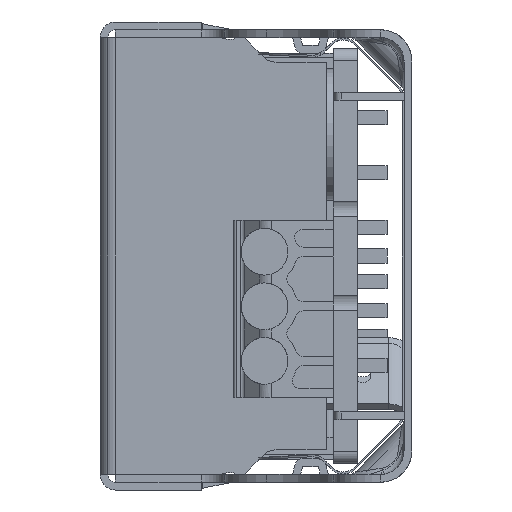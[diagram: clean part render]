
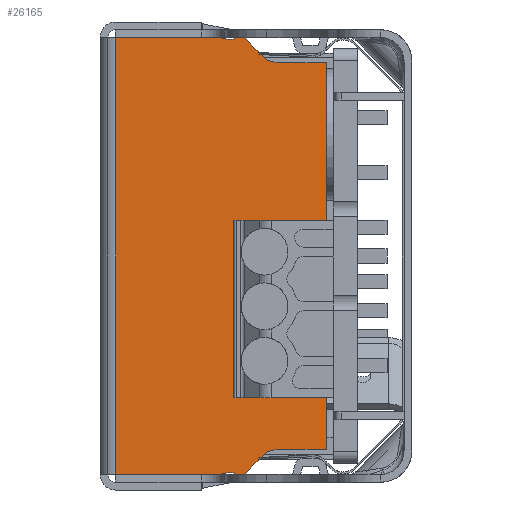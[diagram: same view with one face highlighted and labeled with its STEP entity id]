
A CAD part, left-side view. The second image highlights one B-rep face of the part: STEP entity #26165.
In plain terms, the highlighted planar face has unit normal (-1, 0, 0).
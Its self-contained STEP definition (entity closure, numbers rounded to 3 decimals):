
#551=PLANE('',#27754);
#1696=LINE('',#36732,#3579);
#1711=LINE('',#36772,#3594);
#1800=LINE('',#37047,#3683);
#1805=LINE('',#37057,#3688);
#1812=LINE('',#37071,#3695);
#1823=LINE('',#37090,#3706);
#1834=LINE('',#37128,#3717);
#1841=LINE('',#37147,#3724);
#1851=LINE('',#37178,#3734);
#1974=LINE('',#37437,#3857);
#1976=LINE('',#37441,#3859);
#1984=LINE('',#37457,#3867);
#1998=LINE('',#37499,#3881);
#2000=LINE('',#37510,#3883);
#2041=LINE('',#37614,#3924);
#2042=LINE('',#37617,#3925);
#2043=LINE('',#37618,#3926);
#2044=LINE('',#37620,#3927);
#3579=VECTOR('',#31245,1000.);
#3594=VECTOR('',#31274,1000.);
#3683=VECTOR('',#31509,1000.);
#3688=VECTOR('',#31516,1000.);
#3695=VECTOR('',#31525,1000.);
#3706=VECTOR('',#31538,1000.);
#3717=VECTOR('',#31567,1000.);
#3724=VECTOR('',#31582,1000.);
#3734=VECTOR('',#31604,1000.);
#3857=VECTOR('',#31825,1000.);
#3859=VECTOR('',#31831,1000.);
#3867=VECTOR('',#31843,1000.);
#3881=VECTOR('',#31889,1000.);
#3883=VECTOR('',#31905,1000.);
#3924=VECTOR('',#31998,1000.);
#3925=VECTOR('',#31999,1000.);
#3926=VECTOR('',#32000,1000.);
#3927=VECTOR('',#32001,1000.);
#5022=CIRCLE('',#27724,2.);
#5024=CIRCLE('',#27727,2.);
#5025=CIRCLE('',#27730,2.);
#5028=CIRCLE('',#27734,2.);
#5031=CIRCLE('',#27749,0.7);
#5034=CIRCLE('',#27755,0.7);
#8706=ORIENTED_EDGE('',*,*,#12579,.F.);
#8707=ORIENTED_EDGE('',*,*,#12580,.T.);
#8708=ORIENTED_EDGE('',*,*,#12318,.T.);
#8709=ORIENTED_EDGE('',*,*,#12161,.T.);
#8710=ORIENTED_EDGE('',*,*,#12307,.F.);
#8711=ORIENTED_EDGE('',*,*,#12521,.T.);
#8712=ORIENTED_EDGE('',*,*,#12526,.F.);
#8713=ORIENTED_EDGE('',*,*,#12491,.T.);
#8714=ORIENTED_EDGE('',*,*,#12333,.T.);
#8715=ORIENTED_EDGE('',*,*,#12499,.T.);
#8716=ORIENTED_EDGE('',*,*,#12534,.F.);
#8717=ORIENTED_EDGE('',*,*,#12527,.T.);
#8718=ORIENTED_EDGE('',*,*,#12295,.F.);
#8719=ORIENTED_EDGE('',*,*,#12142,.T.);
#8720=ORIENTED_EDGE('',*,*,#12300,.T.);
#8721=ORIENTED_EDGE('',*,*,#12581,.T.);
#8722=ORIENTED_EDGE('',*,*,#12582,.F.);
#8723=ORIENTED_EDGE('',*,*,#12569,.F.);
#8724=ORIENTED_EDGE('',*,*,#12530,.T.);
#8725=ORIENTED_EDGE('',*,*,#12342,.T.);
#8726=ORIENTED_EDGE('',*,*,#12489,.T.);
#8727=ORIENTED_EDGE('',*,*,#12356,.T.);
#8728=ORIENTED_EDGE('',*,*,#12524,.T.);
#8729=ORIENTED_EDGE('',*,*,#12583,.F.);
#12142=EDGE_CURVE('',#14485,#14486,#1696,.T.);
#12161=EDGE_CURVE('',#14503,#14504,#1711,.T.);
#12295=EDGE_CURVE('',#14485,#14574,#1800,.T.);
#12300=EDGE_CURVE('',#14486,#14577,#1805,.T.);
#12307=EDGE_CURVE('',#14583,#14504,#1812,.T.);
#12318=EDGE_CURVE('',#14587,#14503,#1823,.T.);
#12333=EDGE_CURVE('',#14601,#14600,#1834,.T.);
#12342=EDGE_CURVE('',#14609,#14610,#1841,.T.);
#12356=EDGE_CURVE('',#14624,#14623,#1851,.T.);
#12489=EDGE_CURVE('',#14610,#14624,#1974,.T.);
#12491=EDGE_CURVE('',#14711,#14601,#1976,.T.);
#12499=EDGE_CURVE('',#14600,#14716,#1984,.T.);
#12521=EDGE_CURVE('',#14583,#14728,#1998,.T.);
#12524=EDGE_CURVE('',#14623,#14730,#5022,.T.);
#12526=EDGE_CURVE('',#14711,#14728,#5024,.T.);
#12527=EDGE_CURVE('',#14731,#14574,#2000,.T.);
#12530=EDGE_CURVE('',#14733,#14609,#5025,.T.);
#12534=EDGE_CURVE('',#14731,#14716,#5028,.T.);
#12569=EDGE_CURVE('',#14733,#14758,#5031,.T.);
#12579=EDGE_CURVE('',#14764,#14765,#2041,.T.);
#12580=EDGE_CURVE('',#14764,#14587,#2042,.T.);
#12581=EDGE_CURVE('',#14577,#14766,#2043,.T.);
#12582=EDGE_CURVE('',#14758,#14766,#2044,.T.);
#12583=EDGE_CURVE('',#14765,#14730,#5034,.T.);
#14485=VERTEX_POINT('',#36733);
#14486=VERTEX_POINT('',#36734);
#14503=VERTEX_POINT('',#36773);
#14504=VERTEX_POINT('',#36774);
#14574=VERTEX_POINT('',#37048);
#14577=VERTEX_POINT('',#37056);
#14583=VERTEX_POINT('',#37070);
#14587=VERTEX_POINT('',#37081);
#14600=VERTEX_POINT('',#37127);
#14601=VERTEX_POINT('',#37129);
#14609=VERTEX_POINT('',#37148);
#14610=VERTEX_POINT('',#37149);
#14623=VERTEX_POINT('',#37177);
#14624=VERTEX_POINT('',#37179);
#14711=VERTEX_POINT('',#37442);
#14716=VERTEX_POINT('',#37456);
#14728=VERTEX_POINT('',#37498);
#14730=VERTEX_POINT('',#37504);
#14731=VERTEX_POINT('',#37511);
#14733=VERTEX_POINT('',#37517);
#14758=VERTEX_POINT('',#37596);
#14764=VERTEX_POINT('',#37615);
#14765=VERTEX_POINT('',#37616);
#14766=VERTEX_POINT('',#37619);
#16315=EDGE_LOOP('',(#8706,#8707,#8708,#8709,#8710,#8711,#8712,#8713,#8714,
#8715,#8716,#8717,#8718,#8719,#8720,#8721,#8722,#8723,#8724,#8725,#8726,
#8727,#8728,#8729));
#17587=FACE_BOUND('',#16315,.T.);
#26165=ADVANCED_FACE('',(#17587),#551,.T.);
#27724=AXIS2_PLACEMENT_3D('',#37505,#31895,#31896);
#27727=AXIS2_PLACEMENT_3D('',#37508,#31901,#31902);
#27730=AXIS2_PLACEMENT_3D('',#37516,#31910,#31911);
#27734=AXIS2_PLACEMENT_3D('',#37523,#31919,#31920);
#27749=AXIS2_PLACEMENT_3D('',#37595,#31979,#31980);
#27754=AXIS2_PLACEMENT_3D('',#37613,#31996,#31997);
#27755=AXIS2_PLACEMENT_3D('',#37621,#32002,#32003);
#31245=DIRECTION('',(0.,-0.052,0.999));
#31274=DIRECTION('',(0.,0.052,0.999));
#31509=DIRECTION('',(0.,-0.999,-0.052));
#31516=DIRECTION('',(0.,-0.999,-0.052));
#31525=DIRECTION('',(0.,0.999,-0.052));
#31538=DIRECTION('',(0.,0.999,-0.052));
#31567=DIRECTION('',(0.,0.,1.));
#31582=DIRECTION('',(0.,1.,0.));
#31604=DIRECTION('',(0.,-1.,0.));
#31825=DIRECTION('',(0.,0.,-1.));
#31831=DIRECTION('',(0.,-1.,0.));
#31843=DIRECTION('',(0.,1.,0.));
#31889=DIRECTION('',(0.,-0.707,0.707));
#31895=DIRECTION('',(-1.,0.,0.));
#31896=DIRECTION('',(0.,1.,0.));
#31901=DIRECTION('',(-1.,0.,0.));
#31902=DIRECTION('',(0.,1.,0.));
#31905=DIRECTION('',(0.,0.707,0.707));
#31910=DIRECTION('',(-1.,0.,0.));
#31911=DIRECTION('',(0.,1.,0.));
#31919=DIRECTION('',(-1.,0.,0.));
#31920=DIRECTION('',(0.,1.,0.));
#31979=DIRECTION('',(-1.,0.,0.));
#31980=DIRECTION('',(0.,1.,0.));
#31996=DIRECTION('',(-1.,0.,0.));
#31997=DIRECTION('',(0.,1.,0.));
#31998=DIRECTION('',(0.,1.,0.));
#31999=DIRECTION('',(0.,-0.707,0.707));
#32000=DIRECTION('',(0.,0.707,0.707));
#32001=DIRECTION('',(0.,-1.,0.));
#32002=DIRECTION('',(-1.,0.,0.));
#32003=DIRECTION('',(0.,1.,0.));
#36732=CARTESIAN_POINT('',(-110.5,10.519,-0.47));
#36733=CARTESIAN_POINT('',(-110.5,9.817,12.922));
#36734=CARTESIAN_POINT('',(-110.5,9.811,13.046));
#36772=CARTESIAN_POINT('',(-110.5,10.519,0.47));
#36773=CARTESIAN_POINT('',(-110.5,9.811,-13.046));
#36774=CARTESIAN_POINT('',(-110.5,9.817,-12.922));
#37047=CARTESIAN_POINT('',(-110.5,18.776,13.391));
#37048=CARTESIAN_POINT('',(-110.5,9.655,12.913));
#37056=CARTESIAN_POINT('',(-110.5,9.788,13.045));
#37057=CARTESIAN_POINT('',(-110.5,18.769,13.516));
#37070=CARTESIAN_POINT('',(-110.5,9.655,-12.913));
#37071=CARTESIAN_POINT('',(-110.5,18.776,-13.391));
#37081=CARTESIAN_POINT('',(-110.5,9.788,-13.045));
#37090=CARTESIAN_POINT('',(-110.5,18.769,-13.516));
#37127=CARTESIAN_POINT('',(-110.5,5.478,12.4));
#37128=CARTESIAN_POINT('',(-110.5,5.478,-14.));
#37129=CARTESIAN_POINT('',(-110.5,5.478,-12.4));
#37147=CARTESIAN_POINT('',(-110.5,5.478,14.));
#37148=CARTESIAN_POINT('',(-110.5,12.478,14.));
#37149=CARTESIAN_POINT('',(-110.5,18.978,14.));
#37177=CARTESIAN_POINT('',(-110.5,12.478,-14.));
#37178=CARTESIAN_POINT('',(-110.5,19.5,-14.));
#37179=CARTESIAN_POINT('',(-110.5,18.978,-14.));
#37437=CARTESIAN_POINT('',(-110.5,18.978,14.));
#37441=CARTESIAN_POINT('',(-110.5,5.478,-12.4));
#37442=CARTESIAN_POINT('',(-110.5,8.484,-12.4));
#37456=CARTESIAN_POINT('',(-110.5,8.484,12.4));
#37457=CARTESIAN_POINT('',(-110.5,5.478,12.4));
#37498=CARTESIAN_POINT('',(-110.5,9.331,-12.588));
#37499=CARTESIAN_POINT('',(-110.5,11.031,-14.288));
#37504=CARTESIAN_POINT('',(-110.5,11.88,-13.908));
#37505=CARTESIAN_POINT('',(-110.5,12.478,-12.));
#37508=CARTESIAN_POINT('',(-110.5,8.484,-14.4));
#37510=CARTESIAN_POINT('',(-110.5,9.331,12.588));
#37511=CARTESIAN_POINT('',(-110.5,9.331,12.588));
#37516=CARTESIAN_POINT('',(-110.5,12.478,12.));
#37517=CARTESIAN_POINT('',(-110.5,11.88,13.908));
#37523=CARTESIAN_POINT('',(-110.5,8.484,14.4));
#37595=CARTESIAN_POINT('',(-110.5,11.67,14.576));
#37596=CARTESIAN_POINT('',(-110.5,11.273,14.));
#37613=CARTESIAN_POINT('',(-110.5,19.478,0.));
#37614=CARTESIAN_POINT('',(-110.5,0.,-14.));
#37615=CARTESIAN_POINT('',(-110.5,10.742,-14.));
#37616=CARTESIAN_POINT('',(-110.5,11.273,-14.));
#37617=CARTESIAN_POINT('',(-110.5,11.031,-14.288));
#37618=CARTESIAN_POINT('',(-110.5,9.331,12.588));
#37619=CARTESIAN_POINT('',(-110.5,10.742,14.));
#37620=CARTESIAN_POINT('',(-110.5,0.,14.));
#37621=CARTESIAN_POINT('',(-110.5,11.67,-14.576));
